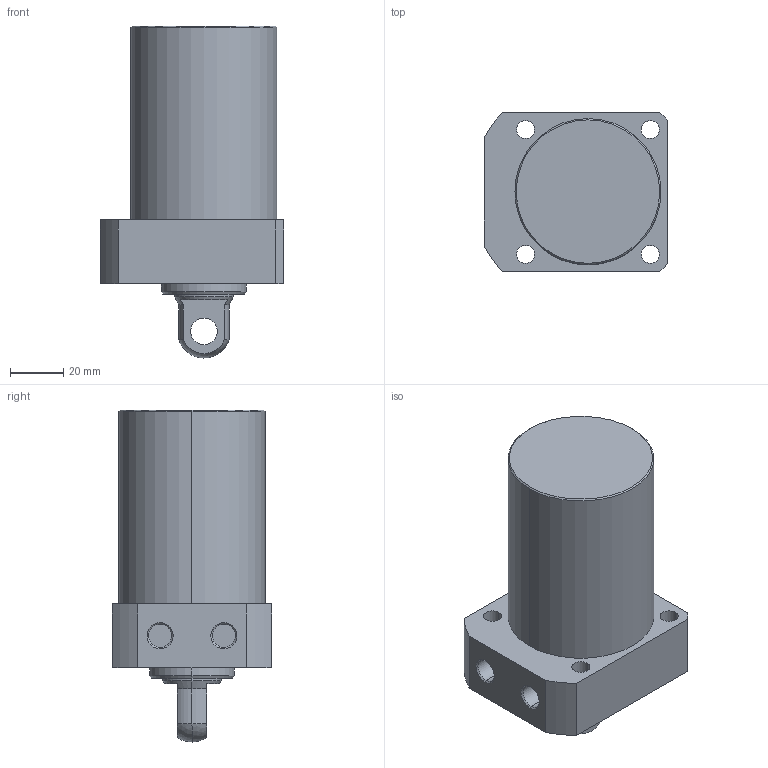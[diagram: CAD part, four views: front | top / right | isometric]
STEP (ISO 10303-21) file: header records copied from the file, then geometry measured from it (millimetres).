
FILE_DESCRIPTION (( 'STEP AP203' ), '1' );
FILE_NAME ('CLLR-055CP-060.STEP', '2019-12-19T08:29:24', ( '' ), ( '' ), 'SwSTEP 2.0', 'SolidWorks 2015', '' );
FILE_SCHEMA (( 'CONFIG_CONTROL_DESIGN' ));
Length unit declared in the file: millimetre
Products named in the file (1): CLLR-055CP-060
Bounding box: 69 x 60 x 125 mm (x, y, z)
Volume: 272684.8 mm3; surface area: 30891.4 mm2
Topology: 1 solids, 1 shells, 59 faces, 139 edges, 89 vertices
Faces by surface type: cylinder 29, plane 18, cone 10, sphere 2
Entity records: 1820 total; most frequent: DIRECTION 329, CARTESIAN_POINT 300, ORIENTED_EDGE 278, EDGE_CURVE 139, AXIS2_PLACEMENT_3D 134, VERTEX_POINT 89, EDGE_LOOP 76, CIRCLE 74
